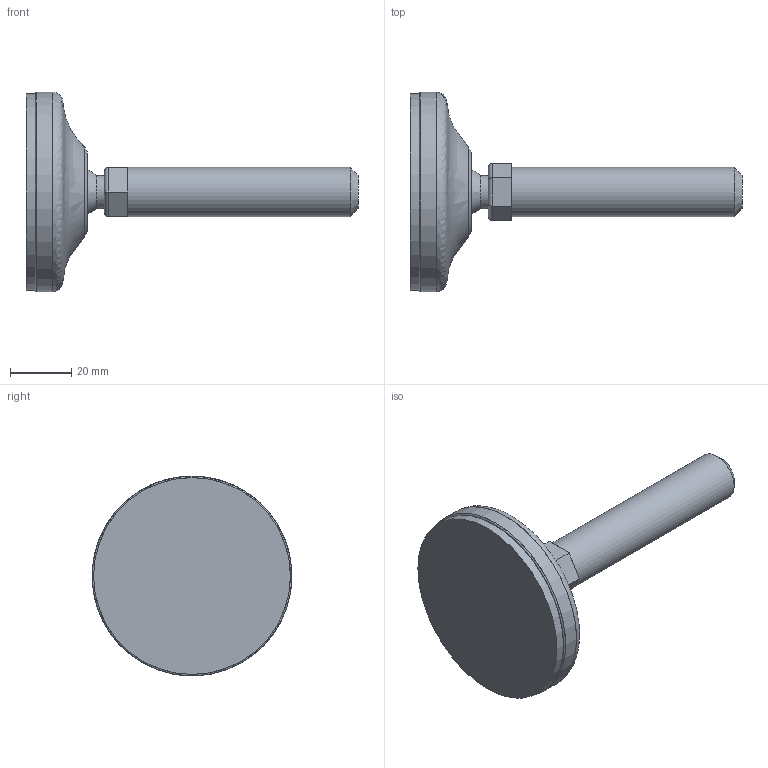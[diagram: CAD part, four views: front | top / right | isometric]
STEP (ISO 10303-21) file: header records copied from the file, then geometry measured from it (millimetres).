
FILE_DESCRIPTION(('STEP AP203'),'2;1');
FILE_NAME('10723.stp','2015-02-25T14:22:26',(''),(''),'2008.1.107','THINKDESIGN','');
FILE_SCHEMA(('CONFIG_CONTROL_DESIGN'));
Length unit declared in the file: millimetre
Bounding box: 108 x 65 x 65 mm (x, y, z)
Volume: 26855.4 mm3; surface area: 20834.6 mm2
Topology: 4 solids, 4 shells, 32 faces, 73 edges, 46 vertices
Faces by surface type: plane 16, cylinder 10, bspline 6
Full cylindrical faces by diameter (mm): 10.757 x1, 16 x1, 64 x1, 65 x1
Entity records: 1317 total; most frequent: CARTESIAN_POINT 530, DIRECTION 124, ORIENTED_EDGE 102, EDGE_CURVE 51, AXIS2_PLACEMENT_3D 47, VERTEX_POINT 34, VECTOR 30, LINE 30
